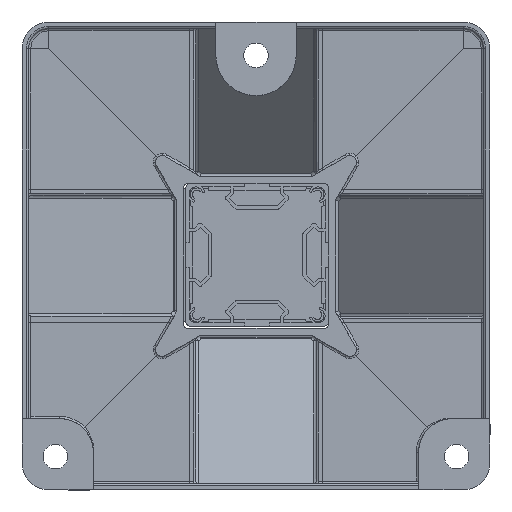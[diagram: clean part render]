
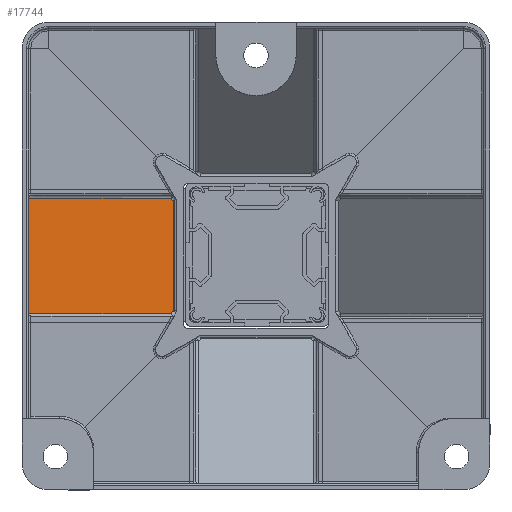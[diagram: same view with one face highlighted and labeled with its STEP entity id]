
A CAD part, front view. The second image highlights one B-rep face of the part: STEP entity #17744.
In plain terms, the highlighted planar face has unit normal (0.697, -0.718, 0).
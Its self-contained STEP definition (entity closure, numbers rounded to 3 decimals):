
#3961 = CARTESIAN_POINT ( 'NONE',  ( -102., -1.269, 26. ) ) ;
#4111 = DIRECTION ( 'NONE',  ( 0., 0., -1. ) ) ;
#4112 = VECTOR ( 'NONE', #4111, 1000. ) ;
#4113 = CARTESIAN_POINT ( 'NONE',  ( -102., -1.269, 30. ) ) ;
#4114 = LINE ( 'NONE', #4113, #4112 ) ;
#4462 = CARTESIAN_POINT ( 'NONE',  ( -102., -1.269, -26. ) ) ;
#5111 = LINE ( 'NONE', #5115, #5774 ) ;
#5115 = CARTESIAN_POINT ( 'NONE',  ( -36.614, 62.194, -23.616 ) ) ;
#5348 = CARTESIAN_POINT ( 'NONE',  ( -37.196, 61.629, 24.611 ) ) ;
#5774 = VECTOR ( 'NONE', #5799, 1000. ) ;
#5799 = DIRECTION ( 'NONE',  ( 0.454, 0.44, 0.775 ) ) ;
#6123 = CARTESIAN_POINT ( 'NONE',  ( -38.009, 60.84, 26. ) ) ;
#6306 = CARTESIAN_POINT ( 'NONE',  ( -37.196, 61.629, 24.882 ) ) ;
#6307 = LINE ( 'NONE', #6306, #6640 ) ;
#6312 = DIRECTION ( 'NONE',  ( 0.718, 0.696, 0. ) ) ;
#6314 = DIRECTION ( 'NONE',  ( 0.696, -0.718, 0. ) ) ;
#6315 = CARTESIAN_POINT ( 'NONE',  ( -34.911, 63.847, 30. ) ) ;
#6317 = FACE_OUTER_BOUND ( 'NONE', #17563, .T. ) ;
#6329 = DIRECTION ( 'NONE',  ( -0.454, -0.44, 0.775 ) ) ;
#6330 = VECTOR ( 'NONE', #6329, 1000. ) ;
#6331 = CARTESIAN_POINT ( 'NONE',  ( -37.853, 60.991, 25.734 ) ) ;
#6472 = DIRECTION ( 'NONE',  ( 0.718, 0.696, 0. ) ) ;
#6474 = VECTOR ( 'NONE', #6472, 1000. ) ;
#6556 = AXIS2_PLACEMENT_3D ( 'NONE', #6315, #6314, #6312 ) ;
#6582 = CARTESIAN_POINT ( 'NONE',  ( -37.196, 61.629, -24.611 ) ) ;
#6584 = CARTESIAN_POINT ( 'NONE',  ( -36.739, 62.072, -26. ) ) ;
#6585 = LINE ( 'NONE', #6584, #6474 ) ;
#6586 = CARTESIAN_POINT ( 'NONE',  ( -38.009, 60.84, -26. ) ) ;
#6587 = PLANE ( 'NONE',  #6556 ) ;
#6630 = DIRECTION ( 'NONE',  ( -0.718, -0.696, 0. ) ) ;
#6631 = VECTOR ( 'NONE', #6630, 1000. ) ;
#6632 = CARTESIAN_POINT ( 'NONE',  ( -34.911, 63.847, 26. ) ) ;
#6633 = LINE ( 'NONE', #6632, #6631 ) ;
#6638 = LINE ( 'NONE', #6331, #6330 ) ;
#6639 = DIRECTION ( 'NONE',  ( 0., 0., 1. ) ) ;
#6640 = VECTOR ( 'NONE', #6639, 1000. ) ;
#16660 = VERTEX_POINT ( 'NONE', #3961 ) ;
#16682 = EDGE_CURVE ( 'NONE', #16660, #16883, #4114, .T. ) ;
#16883 = VERTEX_POINT ( 'NONE', #4462 ) ;
#17563 = EDGE_LOOP ( 'NONE', ( #17739, #17743, #17774, #17777, #17746, #17776 ) ) ;
#17725 = VERTEX_POINT ( 'NONE', #6123 ) ;
#17738 = VERTEX_POINT ( 'NONE', #5348 ) ;
#17739 = ORIENTED_EDGE ( 'NONE', *, *, #16682, .T. ) ;
#17740 = EDGE_CURVE ( 'NONE', #17748, #17755, #5111, .T. ) ;
#17743 = ORIENTED_EDGE ( 'NONE', *, *, #17745, .T. ) ;
#17744 = ADVANCED_FACE ( 'NONE', ( #6317 ), #6587, .T. ) ;
#17745 = EDGE_CURVE ( 'NONE', #16883, #17748, #6585, .T. ) ;
#17746 = ORIENTED_EDGE ( 'NONE', *, *, #17778, .T. ) ;
#17748 = VERTEX_POINT ( 'NONE', #6586 ) ;
#17755 = VERTEX_POINT ( 'NONE', #6582 ) ;
#17774 = ORIENTED_EDGE ( 'NONE', *, *, #17740, .T. ) ;
#17775 = EDGE_CURVE ( 'NONE', #17755, #17738, #6307, .T. ) ;
#17776 = ORIENTED_EDGE ( 'NONE', *, *, #17779, .T. ) ;
#17777 = ORIENTED_EDGE ( 'NONE', *, *, #17775, .T. ) ;
#17778 = EDGE_CURVE ( 'NONE', #17738, #17725, #6638, .T. ) ;
#17779 = EDGE_CURVE ( 'NONE', #17725, #16660, #6633, .T. ) ;
